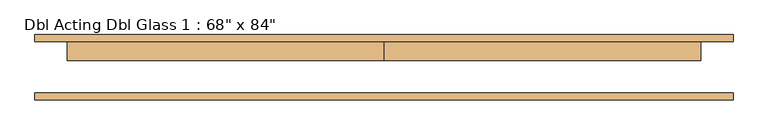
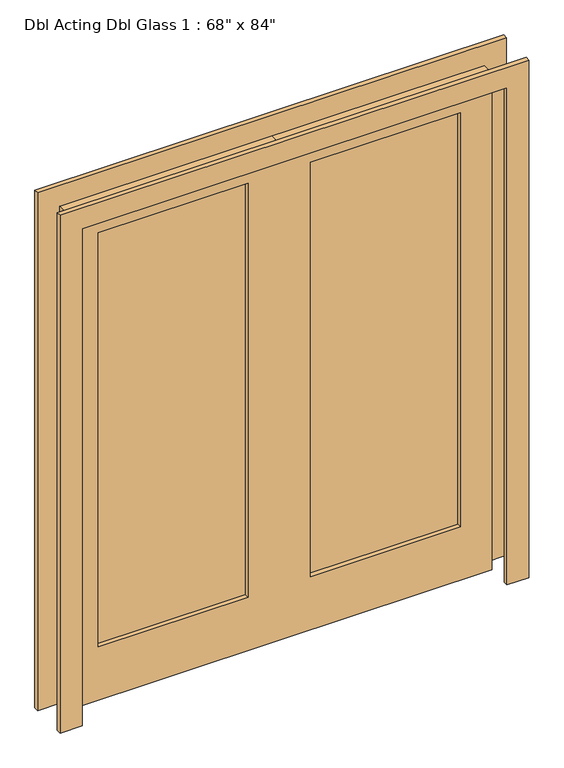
"""IFC4 building model written with IfcOpenShell, lengths in millimetres: door geometry."""

import ifcopenshell
import ifcopenshell.guid

model = None  # the IFC model being written
_history = None  # IfcOwnerHistory: only IFC2X3 demands one
_inside = {}  # id of a spatial element -> (the spatial element, [elements in it])
_under = {}  # id of a project, library or spatial element -> (it, [spatial elements below it])
_declared = {}  # id of a project -> (the project, [libraries it declares])
_typed = {}  # id of a type object -> (the type object, [elements of that type])
_made_of = {}  # id of a material, layer set ... -> (it, [elements and type objects made of it])


def new_model(schema):
    """Start an empty IFC model of exactly this schema.

    Asked for "IFC4X3", IfcOpenShell would pick the latest addendum, in which some entities
    have other attributes; the version numbers below select the first issue.
    IFC2X3 requires an IfcOwnerHistory on every rooted entity: one is made here for all.
    """
    global model, _history
    if schema == "IFC4X3":
        model = ifcopenshell.file(schema_version=(4, 3, 0, 0))
    else:
        model = ifcopenshell.file(schema=schema)
    _inside.clear()
    _under.clear()
    _declared.clear()
    _typed.clear()
    _made_of.clear()
    _history = None
    if model.schema == "IFC2X3":
        org = make("IfcOrganization", Name="unknown")
        user = make(
            "IfcPersonAndOrganization",
            ThePerson=make("IfcPerson", FamilyName="unknown"),
            TheOrganization=org,
        )
        app = make(
            "IfcApplication",
            ApplicationDeveloper=org,
            Version="unknown",
            ApplicationFullName="unknown",
            ApplicationIdentifier="unknown",
        )
        _history = make(
            "IfcOwnerHistory",
            OwningUser=user,
            OwningApplication=app,
            ChangeAction="ADDED",
            CreationDate=0,
        )
    return model


def make(cls, **values):
    """One entity of the class cls with the attributes given. An attribute that is None is left unset."""
    return model.create_entity(
        cls, **{name: value for name, value in values.items() if value is not None}
    )


def rooted(cls, **values):
    """An entity with a GlobalId (a new one), such as an element, a storey or a relation."""
    return make(cls, GlobalId=ifcopenshell.guid.new(), OwnerHistory=_history, **values)


def si_unit(unit_type, name, prefix=None):
    """IfcSIUnit, for example si_unit("LENGTHUNIT", "METRE", prefix="MILLI")."""
    return make("IfcSIUnit", UnitType=unit_type, Prefix=prefix, Name=name)


def assignment(units):
    """IfcUnitAssignment: the units of a project."""
    return None if units is None else make("IfcUnitAssignment", Units=units)


def point(xyz):
    """IfcCartesianPoint."""
    return None if xyz is None else make("IfcCartesianPoint", Coordinates=xyz)


def direction(xyz):
    """IfcDirection."""
    return None if xyz is None else make("IfcDirection", DirectionRatios=xyz)


def frame(location, z_axis=None, x_axis=None):
    """IfcAxis2Placement3D, a coordinate frame: its origin and axes. An axis left out is left unset."""
    return make(
        "IfcAxis2Placement3D",
        Location=point(location),
        Axis=direction(z_axis),
        RefDirection=direction(x_axis),
    )


def origin():
    """The frame at (0, 0, 0) with its axes left unset."""
    return frame((0.0, 0.0, 0.0))


def place(relative_to, where):
    """IfcLocalPlacement: puts the frame where relative to a parent placement (None: the world)."""
    return make(
        "IfcLocalPlacement", PlacementRelTo=relative_to, RelativePlacement=where
    )


def context(
    kind, dimensions, precision=None, world=None, true_north=None, identifier=None
):
    """IfcGeometricRepresentationContext, for example the 3D "Model" context."""
    return make(
        "IfcGeometricRepresentationContext",
        ContextIdentifier=identifier,
        ContextType=kind,
        CoordinateSpaceDimension=dimensions,
        Precision=precision,
        WorldCoordinateSystem=world,
        TrueNorth=true_north,
    )


def project(units=None, contexts=None):
    """IfcProject with its units and contexts."""
    return rooted(
        "IfcProject",
        Name="project",
        RepresentationContexts=contexts,
        UnitsInContext=assignment(units),
    )


def spatial(cls, under=None, at=None, **own):
    """A site, building, storey or space (cls), placed at a placement, below another one or the project."""
    s = rooted(cls, ObjectPlacement=at, **own)
    if under is not None:
        _under.setdefault(under.id(), (under, []))[1].append(s)
    return s


def polyline(points):
    """IfcPolyline through the points."""
    return make("IfcPolyline", Points=[point(p) for p in points])


def outline(outer, holes=None, kind="AREA"):
    """IfcArbitraryClosedProfileDef: a profile drawn as a closed curve; with holes, ...WithVoids."""
    if holes is None:
        return make("IfcArbitraryClosedProfileDef", ProfileType=kind, OuterCurve=outer)
    return make(
        "IfcArbitraryProfileDefWithVoids",
        ProfileType=kind,
        OuterCurve=outer,
        InnerCurves=holes,
    )


def extrude(swept, where, along, depth):
    """IfcExtrudedAreaSolid: the profile swept, set in the frame where, extruded along a direction by depth."""
    return make(
        "IfcExtrudedAreaSolid",
        SweptArea=swept,
        Position=where,
        ExtrudedDirection=direction(along),
        Depth=depth,
    )


def shape(context_of_items, identifier, shape_type, items):
    """IfcShapeRepresentation: the items that make up one representation, for example the "Body"."""
    return make(
        "IfcShapeRepresentation",
        ContextOfItems=context_of_items,
        RepresentationIdentifier=identifier,
        RepresentationType=shape_type,
        Items=items,
    )


def source(mapping_origin, context_of_items, identifier, shape_type, items):
    """IfcRepresentationMap: a shape defined once, which mapped items show again and again."""
    return make(
        "IfcRepresentationMap",
        MappingOrigin=mapping_origin,
        MappedRepresentation=shape(context_of_items, identifier, shape_type, items),
    )


def transform(
    local_origin,
    x_axis=None,
    y_axis=None,
    z_axis=None,
    scale=None,
    scale2=None,
    scale3=None,
    uniform=True,
):
    """IfcCartesianTransformationOperator3D, or its non-uniform kind. x_axis, y_axis, z_axis: its Axis1, 2, 3."""
    if uniform:
        return make(
            "IfcCartesianTransformationOperator3D",
            Axis1=direction(x_axis),
            Axis2=direction(y_axis),
            LocalOrigin=point(local_origin),
            Scale=scale,
            Axis3=direction(z_axis),
        )
    return make(
        "IfcCartesianTransformationOperator3DnonUniform",
        Axis1=direction(x_axis),
        Axis2=direction(y_axis),
        LocalOrigin=point(local_origin),
        Scale=scale,
        Axis3=direction(z_axis),
        Scale2=scale2,
        Scale3=scale3,
    )


def mapped(mapping_source, mapping_target):
    """IfcMappedItem: shows the shape of a source again, moved by a transform."""
    return make(
        "IfcMappedItem", MappingSource=mapping_source, MappingTarget=mapping_target
    )


def made_of(thing, what):
    """Note that an element or type object is made of a material, layer set ...; save() writes the relation."""
    if what is not None:
        _made_of.setdefault(what.id(), (what, []))[1].append(thing)
    return thing


def element(
    cls,
    number,
    at=None,
    inside=None,
    cuts=None,
    type_object=None,
    material=None,
    context=None,
    identifier="Body",
    shape_type=None,
    held_by="IfcProductDefinitionShape",
    body=None,
    shapes=None,
    **own,
):
    """One element of the class cls, such as IfcWall. Its Tag is "e" and its number.

    at: its placement. inside: the storey or other place that contains it. cuts: it is an
    opening in that element (IfcRelVoidsElement). A single representation is given by context,
    identifier, shape_type and body (its items); several are given by shapes. held_by: the class
    of the entity that holds the representations. save() writes the other relations.
    """
    e = rooted(cls, Tag="e%d" % number, ObjectPlacement=at, **own)
    if body is not None:
        shapes = [shape(context, identifier, shape_type, body)]
    if shapes is not None:
        e.Representation = make(held_by, Representations=shapes)
    if inside is not None:
        _inside.setdefault(inside.id(), (inside, []))[1].append(e)
    if cuts is not None:
        rooted(
            "IfcRelVoidsElement", RelatingBuildingElement=cuts, RelatedOpeningElement=e
        )
    if type_object is not None:
        _typed.setdefault(type_object.id(), (type_object, []))[1].append(e)
    return made_of(e, material)


def aggregate(whole, parts):
    """IfcRelAggregates: a whole, such as a stair, and the parts it consists of."""
    return rooted("IfcRelAggregates", RelatingObject=whole, RelatedObjects=parts)


def save(model, path):
    """Write the relations noted so far, then the file.

    IfcRelAggregates (storeys below a building ...), IfcRelContainedInSpatialStructure (elements
    in a storey), IfcRelDefinesByType, IfcRelAssociatesMaterial and IfcRelDeclares: one each for
    every whole, place, type object, material and project.
    """
    for whole, parts in _under.values():
        aggregate(whole, parts)
    for where, things in _inside.values():
        rooted(
            "IfcRelContainedInSpatialStructure",
            RelatedElements=things,
            RelatingStructure=where,
        )
    for kind, things in _typed.values():
        rooted("IfcRelDefinesByType", RelatedObjects=things, RelatingType=kind)
    for what, things in _made_of.values():
        rooted("IfcRelAssociatesMaterial", RelatedObjects=things, RelatingMaterial=what)
    for by, libraries in _declared.values():
        rooted("IfcRelDeclares", RelatingContext=by, RelatedDefinitions=libraries)
    model.write(path)


def door_f1125a27(model_context):
    return source(origin(), model_context, "Body", "SweptSolid", [
        extrude(outline(polyline([(127.0, 76.2), (736.6, 76.2), (736.6, 63.5), (127.0, 63.5), (127.0, 76.2)])), frame((0.0, 0.0, 228.6), z_axis=(0.0, 0.0, 1.0), x_axis=(1.0, 0.0, 0.0)), (0.0, 0.0, 1.0), 1778.0),
        extrude(outline(polyline([(-736.6, 76.2), (-127.0, 76.2), (-127.0, 63.5), (-736.6, 63.5), (-736.6, 76.2)])), frame((0.0, 0.0, 228.6), z_axis=(0.0, 0.0, 1.0), x_axis=(1.0, 0.0, 0.0)), (0.0, 0.0, 1.0), 1778.0),
        extrude(outline(polyline([(2133.6, 0.0), (2133.6, -863.6), (0.0, -863.6), (0.0, 0.0), (0.0, 863.6), (2133.6, 863.6), (2133.6, 0.0)]), holes=[polyline([(2006.6, 127.0), (2006.6, 736.6), (228.6, 736.6), (228.6, 127.0), (2006.6, 127.0)]), polyline([(2006.6, -127.0), (228.6, -127.0), (228.6, -736.6), (2006.6, -736.6), (2006.6, -127.0)])]), frame((0.0, 44.45, 0.0), z_axis=(0.0, 1.0, 0.0), x_axis=(0.0, 0.0, 1.0)), (0.0, 0.0, 1.0), 50.8),
        extrude(outline(polyline([(2133.6, -863.6), (2133.6, 863.6), (0.0, 863.6), (0.0, 952.5), (2222.5, 952.5), (2222.5, -952.5), (0.0, -952.5), (0.0, -863.6), (2133.6, -863.6)])), frame((0.0, -63.5, 0.0), z_axis=(0.0, 1.0, 0.0), x_axis=(0.0, 0.0, 1.0)), (0.0, 0.0, 1.0), 19.05),
        extrude(outline(polyline([(2133.6, -863.6), (2133.6, 863.6), (0.0, 863.6), (0.0, 952.5), (2222.5, 952.5), (2222.5, -952.5), (0.0, -952.5), (0.0, -863.6), (2133.6, -863.6)])), frame((0.0, 95.25, 0.0), z_axis=(0.0, 1.0, 0.0), x_axis=(0.0, 0.0, 1.0)), (0.0, 0.0, 1.0), 19.05),
    ])


if __name__ == "__main__":
    model = new_model("IFC4")
    model_context = context("Model", 3, world=origin())
    ifc_project = project(units=[si_unit("LENGTHUNIT", "METRE", prefix="MILLI")], contexts=[model_context])
    site = spatial("IfcSite", under=ifc_project)
    building = spatial("IfcBuilding", under=site)
    placement = place(None, origin())
    door_shape = door_f1125a27(model_context)
    element("IfcDoor", 1, ObjectType="Dbl Acting Dbl Glass 1 : 68\" x 84\"", at=placement, inside=building, context=model_context, shape_type="MappedRepresentation", body=[
        mapped(door_shape, transform((0.0, 0.0, 0.0), x_axis=(1.0, 0.0, 0.0), y_axis=(0.0, 1.0, 0.0), z_axis=(0.0, 0.0, 1.0))),
    ])
    save(model, "model.ifc")
